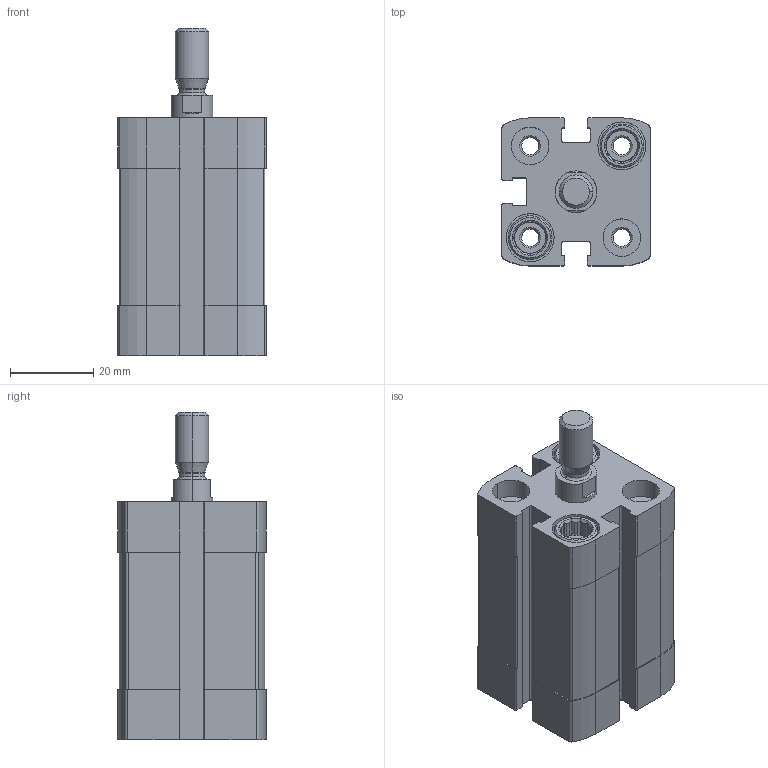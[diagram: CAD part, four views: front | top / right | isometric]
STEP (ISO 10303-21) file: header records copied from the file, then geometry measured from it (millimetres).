
FILE_DESCRIPTION (( 'STEP AP203' ), '1' );
FILE_NAME ('CCN20-20M.STEP', '2017-03-28T17:06:17', ( '' ), ( '' ), 'SwSTEP 2.0', 'SolidWorks 2016', '' );
FILE_SCHEMA (( 'CONFIG_CONTROL_DESIGN' ));
Length unit declared in the file: millimetre
Products named in the file (3): CCN20---(Z); CCN20_(KS); CCN20-20M
Assembly tree (2 placements, depth 2):
  CCN20-20M
    CCN20---(Z)
    CCN20_(KS)
Bounding box: 35.5 x 35.5 x 78.5 mm (x, y, z)
Volume: 54007.7 mm3; surface area: 23392.2 mm2
Topology: 2 solids, 2 shells, 409 faces, 1082 edges, 708 vertices
Faces by surface type: plane 231, cylinder 134, cone 40, bspline 4
Entity records: 13213 total; most frequent: CARTESIAN_POINT 2564, DIRECTION 2218, ORIENTED_EDGE 2164, EDGE_CURVE 1082, AXIS2_PLACEMENT_3D 826, VERTEX_POINT 708, VECTOR 566, LINE 566
